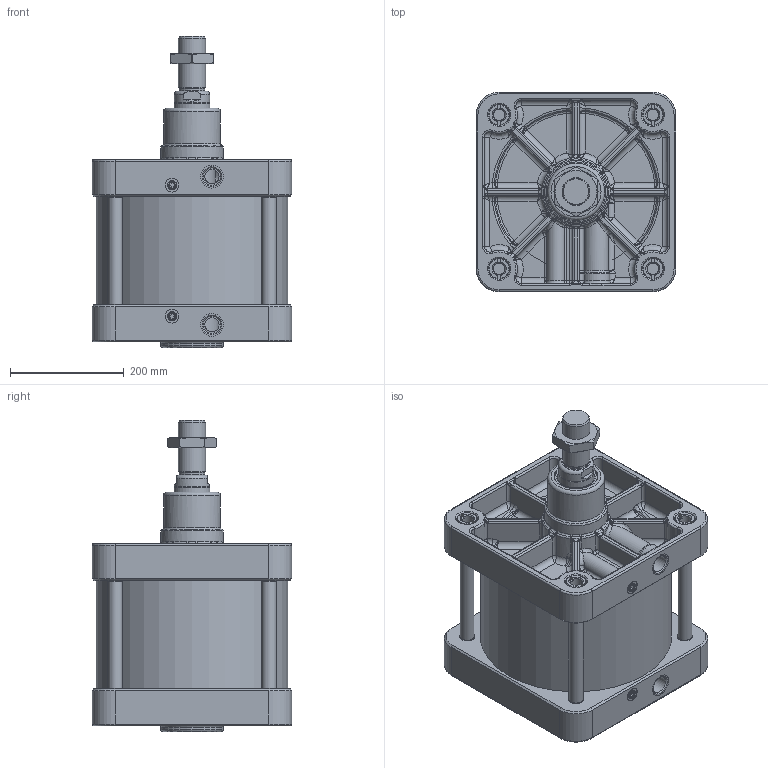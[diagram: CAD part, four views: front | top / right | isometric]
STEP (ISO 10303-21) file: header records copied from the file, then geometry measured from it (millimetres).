
FILE_DESCRIPTION(/* description */ (''),/* implementation_level */ '2;1');
FILE_NAME(/* name */ 'T:\Archivio Inventor\- 00 NUOVI STP PER SITO CON STELO CHE SI MUOVE\SERIE H - U\SERIE UDM\UDM320.---.GS.M\UDM320.100.GS.M.stp',/* time_stamp */ '2020-04-29T16:28:32+02:00',/* author */ ('carlo.corazza'),/* organization */ (''),/* preprocessor_version */ 'ST-DEVELOPER v16.5',/* originating_system */ 'Autodesk Inventor 2017',/* authorisation */ '');
FILE_SCHEMA (('AUTOMOTIVE_DESIGN { 1 0 10303 214 3 1 1 }'));
Length unit declared in the file: millimetre
Products named in the file (7): UDM320.100.GS.M; TP; STELO-100; TA; CORPO-100; TIRANTE-100; 29.2048.000.0
Assembly tree (9 placements, depth 2):
  UDM320.100.GS.M
    TP
    STELO-100
    TA
    TIRANTE-100  x4
    CORPO-100
    29.2048.000.0
Bounding box: 350 x 350 x 546 mm (x, y, z)
Volume: 12370403.1 mm3; surface area: 1725021.3 mm2
Topology: 9 solids, 16 shells, 1710 faces, 3937 edges, 2221 vertices
Faces by surface type: cylinder 439, bspline 432, plane 380, torus 252, cone 115, sphere 92
Full cylindrical faces by diameter (mm): 8 x2, 9 x1, 10 x1, 11 x2, 11.2 x2, 12 x2, 12.376 x1, 13.4 x4, 14 x2, 15.8 x4, 16 x6, 20.752 x8, 24 x10, 24.5 x8, 25 x6, 30.291 x2, 36 x9, 37 x8, 40 x2, 44.8 x1, 45.835 x1, 48 x1, 62 x1, 63 x1, 64 x1, 64.293 x1, 65.8 x1, 73 x1, 75 x3, 100 x1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
Entity records: 64917 total; most frequent: CARTESIAN_POINT 27888, DIRECTION 7314, ORIENTED_EDGE 7088, EDGE_CURVE 3544, AXIS2_PLACEMENT_3D 3113, VERTEX_POINT 2134, EDGE_LOOP 1966, FACE_OUTER_BOUND 1683
